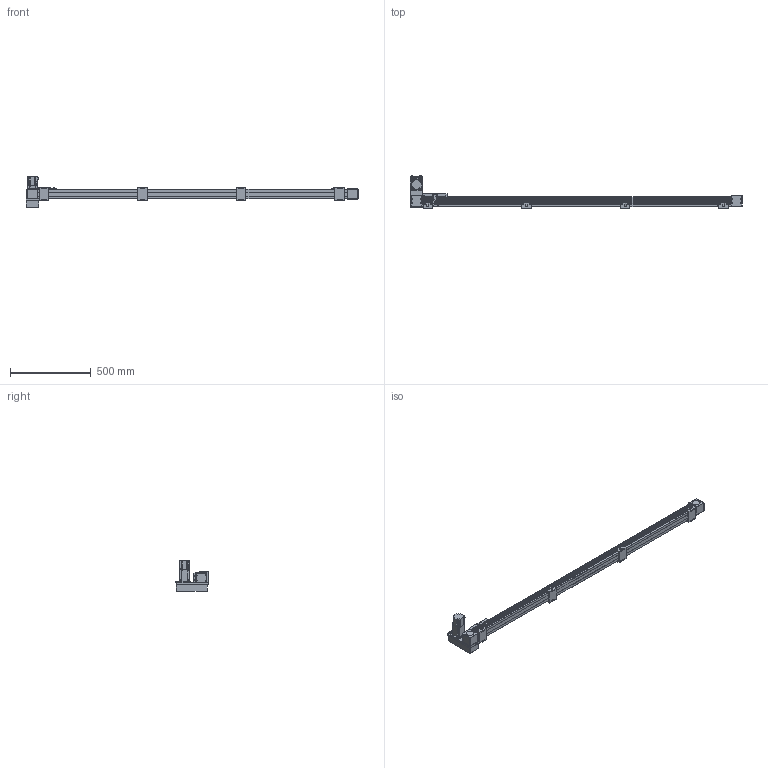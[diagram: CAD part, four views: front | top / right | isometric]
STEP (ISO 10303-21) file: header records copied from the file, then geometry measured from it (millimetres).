
FILE_DESCRIPTION(/* description */ ('STEP AP214'),/* implementation_level */ '2;1');
FILE_NAME(/* name */ 'SK60-P13-S1750-LU-T40-C1-N(0)',/* time_stamp */ '2023-04-06T04:48:13+02:00',/* author */ ('License CC BY-ND 4.0'),/* organization */ ('CADENAS'),/* preprocessor_version */ 'ST-DEVELOPER v19.3',/* originating_system */ 'PARTsolutions',/* authorisation */ ' ');
FILE_SCHEMA (('AUTOMOTIVE_DESIGN {1 0 10303 214 3 1 1}'));
Length unit declared in the file: millimetre
Products named in the file (10): SK60-P13-S1750-LU-T40-C1-N(0); PSC140-sensor; SK60-S450_seat; SK60-S450-BL-C1_slider; SK60_body3; SK60_body6; SK60-BL_body2; T40-p1; SK60-LU_fb; SK60-S1750-LU-C1_body
Assembly tree (18 placements, depth 2):
  SK60-P13-S1750-LU-T40-C1-N(0)
    PSC140-sensor  x3
    SK60-S450_seat  x4
    SK60-S450-BL-C1_slider
    SK60_body3  x3
    SK60_body6  x2
    SK60-BL_body2  x2
    T40-p1
    SK60-LU_fb
    SK60-S1750-LU-C1_body
Bounding box: 2055.5 x 201 x 189.7 mm (x, y, z)
Volume: 8179586.6 mm3; surface area: 986920 mm2
Topology: 18 solids, 18 shells, 898 faces, 2244 edges, 1477 vertices
Faces by surface type: plane 572, cylinder 294, cone 30, torus 2
Full cylindrical faces by diameter (mm): 2.8 x3, 3.3 x4, 4 x2, 4.5 x30, 4.6 x3, 4.917 x24, 5 x6, 5.478 x4, 5.5 x27, 6.5 x8, 7 x2, 8 x4, 8.5 x4, 9.988 x4, 10 x16, 14 x1, 47 x3, 50 x2
Entity records: 18671 total; most frequent: DIRECTION 3188, CARTESIAN_POINT 3152, ORIENTED_EDGE 2940, EDGE_CURVE 1470, AXIS2_PLACEMENT_3D 1070, LINE 1048, VECTOR 1048, VERTEX_POINT 1034
